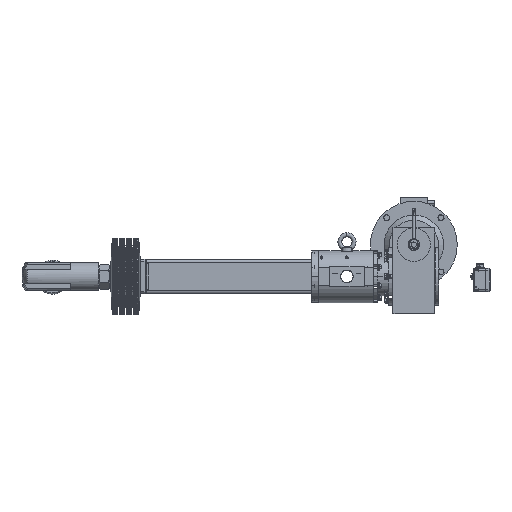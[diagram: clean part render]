
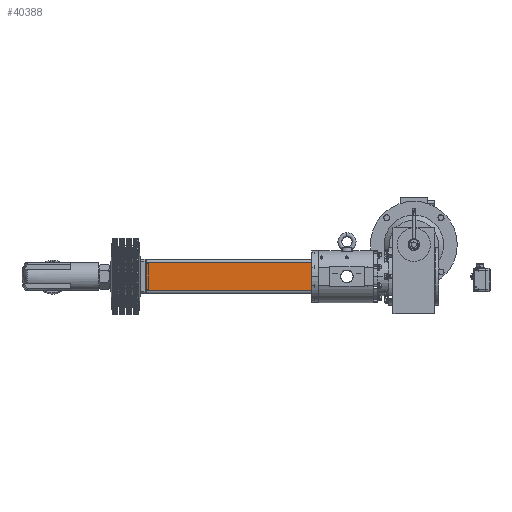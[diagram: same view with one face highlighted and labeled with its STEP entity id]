
A CAD part, top view. The second image highlights one B-rep face of the part: STEP entity #40388.
In plain terms, the highlighted planar face has unit normal (0, 0, 1).
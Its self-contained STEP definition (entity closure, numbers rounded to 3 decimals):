
#7632 = CARTESIAN_POINT ( 'NONE',  ( 2., 48., 60. ) ) ;
#7650 = CARTESIAN_POINT ( 'NONE',  ( 2., -48., 60. ) ) ;
#7660 = CARTESIAN_POINT ( 'NONE',  ( 580., 48., 60. ) ) ;
#7669 = CARTESIAN_POINT ( 'NONE',  ( 580., -48., 60. ) ) ;
#10253 = EDGE_LOOP ( 'NONE', ( #53972, #53973, #53974, #53975 ) ) ;
#23031 = AXIS2_PLACEMENT_3D ( 'NONE', #43125, #43133, #43134 ) ;
#29326 = VERTEX_POINT ( 'NONE', #7632 ) ;
#29344 = VERTEX_POINT ( 'NONE', #7650 ) ;
#29354 = VERTEX_POINT ( 'NONE', #7660 ) ;
#29363 = VERTEX_POINT ( 'NONE', #7669 ) ;
#40388 = ADVANCED_FACE ( 'NONE', ( #45160 ), #43130, .F. ) ;
#43125 = CARTESIAN_POINT ( 'NONE',  ( 580., 48., 60. ) ) ;
#43130 = PLANE ( 'NONE',  #23031 ) ;
#43133 = DIRECTION ( 'NONE',  ( 0., 0., -1. ) ) ;
#43134 = DIRECTION ( 'NONE',  ( -1., 0., 0. ) ) ;
#45160 = FACE_OUTER_BOUND ( 'NONE', #10253, .T. ) ;
#50458 = LINE ( 'NONE', #52747, #50462 ) ;
#50462 = VECTOR ( 'NONE', #52748, 1000. ) ;
#50532 = LINE ( 'NONE', #52816, #50538 ) ;
#50538 = VECTOR ( 'NONE', #52818, 1000. ) ;
#50578 = LINE ( 'NONE', #52847, #50590 ) ;
#50582 = LINE ( 'NONE', #52844, #50586 ) ;
#50586 = VECTOR ( 'NONE', #52841, 1000. ) ;
#50590 = VECTOR ( 'NONE', #52852, 1000. ) ;
#52747 = CARTESIAN_POINT ( 'NONE',  ( 580., 48., 60. ) ) ;
#52748 = DIRECTION ( 'NONE',  ( 0., -1., 0. ) ) ;
#52816 = CARTESIAN_POINT ( 'NONE',  ( 580., -48., 60. ) ) ;
#52818 = DIRECTION ( 'NONE',  ( -1., 0., 0. ) ) ;
#52841 = DIRECTION ( 'NONE',  ( -1., 0., 0. ) ) ;
#52844 = CARTESIAN_POINT ( 'NONE',  ( 580., 48., 60. ) ) ;
#52847 = CARTESIAN_POINT ( 'NONE',  ( 2., 48., 60. ) ) ;
#52852 = DIRECTION ( 'NONE',  ( 0., -1., 0. ) ) ;
#53972 = ORIENTED_EDGE ( 'NONE', *, *, #56228, .T. ) ;
#53973 = ORIENTED_EDGE ( 'NONE', *, *, #56229, .T. ) ;
#53974 = ORIENTED_EDGE ( 'NONE', *, *, #56203, .F. ) ;
#53975 = ORIENTED_EDGE ( 'NONE', *, *, #56153, .F. ) ;
#56153 = EDGE_CURVE ( 'NONE', #29354, #29363, #50458, .T. ) ;
#56203 = EDGE_CURVE ( 'NONE', #29363, #29344, #50532, .T. ) ;
#56228 = EDGE_CURVE ( 'NONE', #29354, #29326, #50582, .T. ) ;
#56229 = EDGE_CURVE ( 'NONE', #29326, #29344, #50578, .T. ) ;
